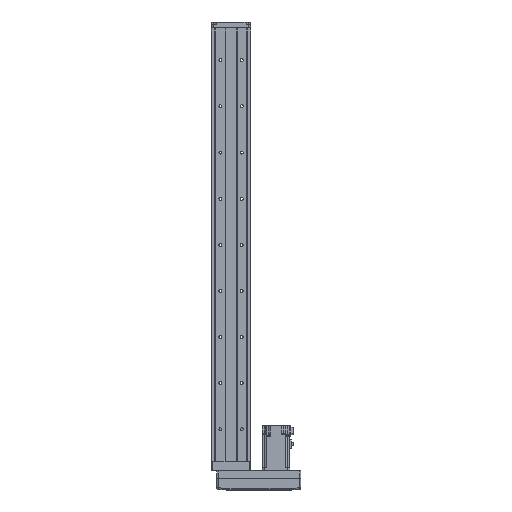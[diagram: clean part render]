
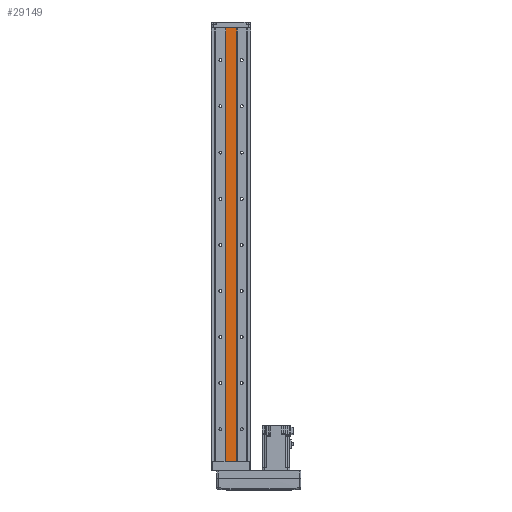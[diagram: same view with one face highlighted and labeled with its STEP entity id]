
A CAD part, front view. The second image highlights one B-rep face of the part: STEP entity #29149.
In plain terms, the highlighted planar face has unit normal (0, -1, 0).
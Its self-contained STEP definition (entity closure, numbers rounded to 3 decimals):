
#236 = ORIENTED_EDGE ( 'NONE', *, *, #21998, .F. ) ;
#1893 = ORIENTED_EDGE ( 'NONE', *, *, #5401, .F. ) ;
#1956 = CARTESIAN_POINT ( 'NONE',  ( 11.731, -13.462, 0. ) ) ;
#5401 = EDGE_CURVE ( 'NONE', #20970, #41557, #16280, .T. ) ;
#8634 = DIRECTION ( 'NONE',  ( 1., 0., 0. ) ) ;
#9632 = VECTOR ( 'NONE', #8634, 1000. ) ;
#11360 = CARTESIAN_POINT ( 'NONE',  ( -12.269, -13.462, 940. ) ) ;
#12314 = ORIENTED_EDGE ( 'NONE', *, *, #36297, .F. ) ;
#14717 = DIRECTION ( 'NONE',  ( 0., 1., 0. ) ) ;
#15321 = EDGE_CURVE ( 'NONE', #32825, #30490, #44964, .T. ) ;
#15648 = EDGE_LOOP ( 'NONE', ( #34134, #236, #1893, #12314 ) ) ;
#16280 = LINE ( 'NONE', #35864, #24576 ) ;
#17482 = PLANE ( 'NONE',  #23361 ) ;
#18263 = CARTESIAN_POINT ( 'NONE',  ( 11.731, -13.462, 940. ) ) ;
#18778 = CARTESIAN_POINT ( 'NONE',  ( -12.269, -13.462, 940. ) ) ;
#20783 = VECTOR ( 'NONE', #32220, 1000. ) ;
#20970 = VERTEX_POINT ( 'NONE', #1956 ) ;
#21117 = CARTESIAN_POINT ( 'NONE',  ( -12.269, -13.462, 0. ) ) ;
#21998 = EDGE_CURVE ( 'NONE', #41557, #32825, #25846, .T. ) ;
#23361 = AXIS2_PLACEMENT_3D ( 'NONE', #11360, #14717, #32061 ) ;
#24576 = VECTOR ( 'NONE', #35271, 1000. ) ;
#25846 = LINE ( 'NONE', #27274, #38533 ) ;
#27274 = CARTESIAN_POINT ( 'NONE',  ( -12.269, -13.462, 940. ) ) ;
#29149 = ADVANCED_FACE ( 'NONE', ( #36208 ), #17482, .F. ) ;
#30490 = VERTEX_POINT ( 'NONE', #40868 ) ;
#32061 = DIRECTION ( 'NONE',  ( 0., 0., 1. ) ) ;
#32220 = DIRECTION ( 'NONE',  ( 0., 0., -1. ) ) ;
#32825 = VERTEX_POINT ( 'NONE', #35849 ) ;
#34134 = ORIENTED_EDGE ( 'NONE', *, *, #15321, .F. ) ;
#35271 = DIRECTION ( 'NONE',  ( -1., 0., 0. ) ) ;
#35849 = CARTESIAN_POINT ( 'NONE',  ( -12.269, -13.462, 940. ) ) ;
#35864 = CARTESIAN_POINT ( 'NONE',  ( -12.269, -13.462, 0. ) ) ;
#36208 = FACE_OUTER_BOUND ( 'NONE', #15648, .T. ) ;
#36297 = EDGE_CURVE ( 'NONE', #30490, #20970, #39575, .T. ) ;
#38533 = VECTOR ( 'NONE', #45155, 1000. ) ;
#39575 = LINE ( 'NONE', #18263, #20783 ) ;
#40868 = CARTESIAN_POINT ( 'NONE',  ( 11.731, -13.462, 940. ) ) ;
#41557 = VERTEX_POINT ( 'NONE', #21117 ) ;
#44964 = LINE ( 'NONE', #18778, #9632 ) ;
#45155 = DIRECTION ( 'NONE',  ( 0., 0., 1. ) ) ;
